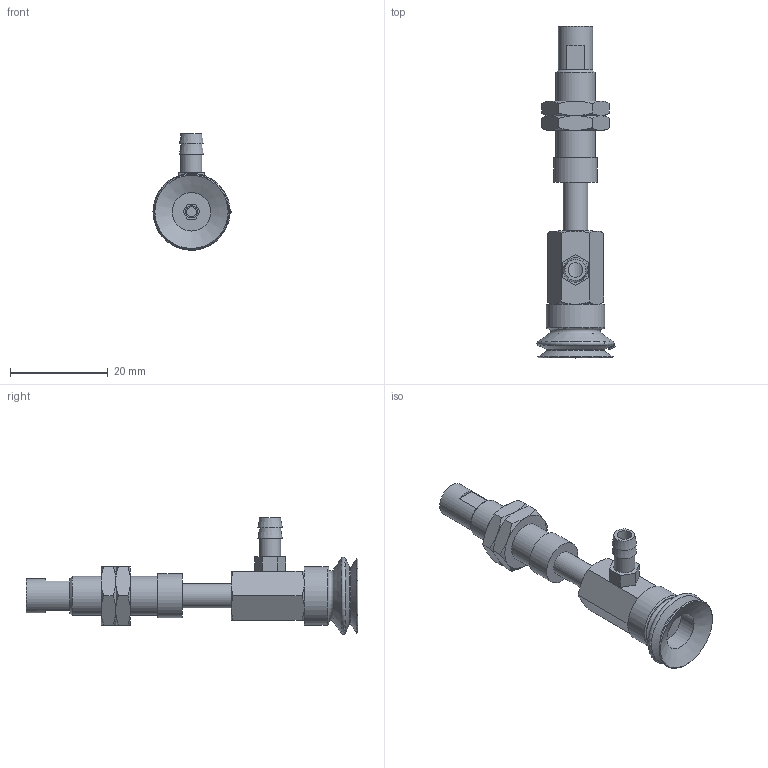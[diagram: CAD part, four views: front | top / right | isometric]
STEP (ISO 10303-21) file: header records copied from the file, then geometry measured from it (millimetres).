
FILE_DESCRIPTION(('STEP AP203'),'1');
FILE_NAME('-T.stp','2025-04-24T00:53:15',(' '),(' '),'Spatial InterOp 3D',' ',' ');
FILE_SCHEMA(('CONFIG_CONTROL_DESIGN'));
Length unit declared in the file: millimetre
Products named in the file (8): BNABPJYS-15-10-※-T; Adapter-15-NAPJ; CONNECTOR_S-15-10; NUT-NAPJ-15-10-s; NAPJTS-15-10-FBODY; NAPJTS-15-10-MBODY; BPJG-15-※; T
Assembly tree (8 placements, depth 2):
  BNABPJYS-15-10-※-T
    Adapter-15-NAPJ
    CONNECTOR_S-15-10
    NUT-NAPJ-15-10-s  x2
    NAPJTS-15-10-FBODY
    NAPJTS-15-10-MBODY
    BPJG-15-※
    T
Bounding box: 15.99 x 68 x 23.89 mm (x, y, z)
Volume: 4465.7 mm3; surface area: 5529.5 mm2
Topology: 8 solids, 8 shells, 169 faces, 358 edges, 216 vertices
Faces by surface type: plane 71, cone 58, cylinder 21, torus 9, bspline 6, sphere 4
Full cylindrical faces by diameter (mm): 2 x1, 2.5 x1, 3 x1, 4.134 x3, 4.3 x1, 4.6 x1, 5 x5, 7 x1, 7.188 x2, 7.9 x1, 8 x2, 9 x1, 12 x1
Entity records: 4266 total; most frequent: CARTESIAN_POINT 990, DIRECTION 610, ORIENTED_EDGE 508, AXIS2_PLACEMENT_3D 263, EDGE_CURVE 254, EDGE_LOOP 217, VERTEX_POINT 179, FACE_OUTER_BOUND 173
